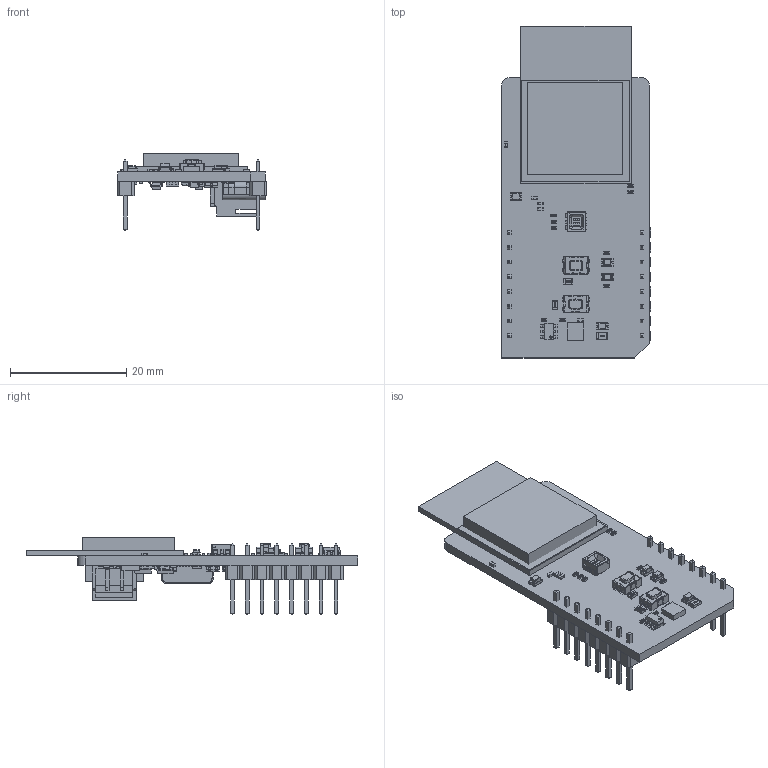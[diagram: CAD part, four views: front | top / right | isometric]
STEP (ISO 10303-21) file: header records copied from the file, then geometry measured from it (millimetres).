
FILE_DESCRIPTION(('Open CASCADE Model'),'2;1');
FILE_NAME('Open CASCADE Shape Model','2026-04-02T13:51:08',('Author'),( 'Open CASCADE'),'Open CASCADE STEP processor 7.5','Open CASCADE 7.5' ,'Unknown');
FILE_SCHEMA(('AUTOMOTIVE_DESIGN { 1 0 10303 214 1 1 1 1 }'));
Length unit declared in the file: millimetre
Products named in the file (143): PCB; Board; Open CASCADE STEP translator 7.5 3.1.1; U2; User Library-SOT23-6-2; U1; 9926358272; Extruded; R4; User Library-R_0402; C1; User Library-SMD CAPACITOR0402; LD4; LED_ORANGE_0805; R15; R3; MBD1; Header 1x8; Free-Models; 1240637040; User_Library-PinHeaderX5-1_PinHeaderX5_Body_1; User_Library-PinHeaderX5-1_PinHeaderX5_Pins_1; C2; C3; C4; C5; C6; C7; C8; C9; C10; C11; C12; CN1; USBCSMD; Free-Models-1; 1457591312; Extruded-1; PCB-1; TYP-C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
Assembly tree (193 placements, depth 10):
  PCB
    Board
      Open CASCADE STEP translator 7.5 3.1.1
    U2
      User Library-SOT23-6-2
    U1
      9926358272
        Extruded
    R4
      User Library-R_0402
    C1
      User Library-SMD CAPACITOR0402
    LD4
      LED_ORANGE_0805
    R15
      User Library-R_0402
    R3
      User Library-R_0402
    MBD1
      Header 1x8  x2
        PCB
          Free-Models
            1240637040  x2
              User_Library-PinHeaderX5-1_PinHeaderX5_Body_1
              User_Library-PinHeaderX5-1_PinHeaderX5_Pins_1
    C2
      User Library-SMD CAPACITOR0402
    C3
      User Library-SMD CAPACITOR0402
    C4
      User Library-SMD CAPACITOR0402
    C5
      User Library-SMD CAPACITOR0402
    C6
      User Library-SMD CAPACITOR0402
    C7
      User Library-SMD CAPACITOR0402
    C8
      User Library-SMD CAPACITOR0402
    C9
      User Library-SMD CAPACITOR0402
    C10
      User Library-SMD CAPACITOR0402
    C11
      User Library-SMD CAPACITOR0402
    C12
      User Library-SMD CAPACITOR0402
    CN1
      USBCSMD
        PCB
          Free-Models-1
            1457591312  x12
              Extruded-1
            USBCSMD
              PCB-1
                Free-Models
                  TYP-C
    D1
      User Library-SOT50P160X60-6
    D2
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Bounding box: 25.78 x 57.16 x 13.3 mm (x, y, z)
Volume: 4533.6 mm3; surface area: 8519.4 mm2
Topology: 194 solids, 194 shells, 7810 faces, 20071 edges, 12684 vertices
Faces by surface type: plane 4041, bspline 2552, cylinder 1050, sphere 142, cone 20, extrusion 3, torus 2
Full cylindrical faces by diameter (mm): 0.6 x2
Entity records: 119103 total; most frequent: CARTESIAN_POINT 36940, ORIENTED_EDGE 14244, DIRECTION 11024, EDGE_CURVE 7122, VECTOR 4894, LINE 4891, VERTEX_POINT 4641, AXIS2_PLACEMENT_3D 3065
